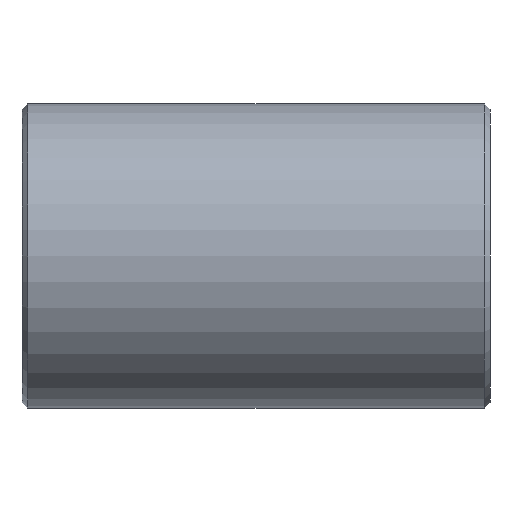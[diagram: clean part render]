
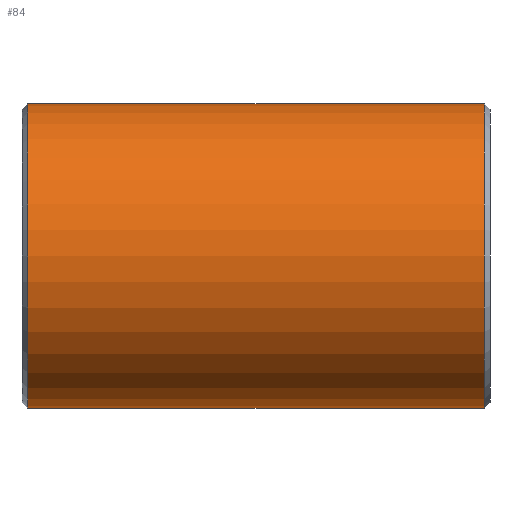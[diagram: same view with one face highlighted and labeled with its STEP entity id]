
A CAD part, front view. The second image highlights one B-rep face of the part: STEP entity #84.
In plain terms, the highlighted cylindrical face has radius 13 mm (diameter 26 mm), a partial arc.
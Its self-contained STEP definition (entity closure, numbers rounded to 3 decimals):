
#48 = LINE ( 'NONE', #449, #118 ) ;
#59 = VERTEX_POINT ( 'NONE', #107 ) ;
#72 = EDGE_CURVE ( 'NONE', #59, #88, #48, .T. ) ;
#82 = DIRECTION ( 'NONE',  ( 0., 0., -1. ) ) ;
#84 = ADVANCED_FACE ( 'NONE', ( #228 ), #328, .T. ) ;
#86 = ORIENTED_EDGE ( 'NONE', *, *, #227, .T. ) ;
#88 = VERTEX_POINT ( 'NONE', #387 ) ;
#89 = DIRECTION ( 'NONE',  ( 0., 0., 1. ) ) ;
#91 = ORIENTED_EDGE ( 'NONE', *, *, #296, .T. ) ;
#98 = CARTESIAN_POINT ( 'NONE',  ( 0., 0., 0. ) ) ;
#107 = CARTESIAN_POINT ( 'NONE',  ( 39.5, 0., -13. ) ) ;
#118 = VECTOR ( 'NONE', #267, 1000. ) ;
#122 = DIRECTION ( 'NONE',  ( 0., 0., 1. ) ) ;
#128 = CARTESIAN_POINT ( 'NONE',  ( 0.5, 0., 0. ) ) ;
#132 = EDGE_CURVE ( 'NONE', #363, #319, #412, .T. ) ;
#136 = CARTESIAN_POINT ( 'NONE',  ( 39.5, 0., 0. ) ) ;
#148 = AXIS2_PLACEMENT_3D ( 'NONE', #136, #340, #89 ) ;
#163 = AXIS2_PLACEMENT_3D ( 'NONE', #98, #443, #122 ) ;
#167 = VECTOR ( 'NONE', #374, 1000. ) ;
#181 = CARTESIAN_POINT ( 'NONE',  ( 0., 0., 13. ) ) ;
#192 = CIRCLE ( 'NONE', #310, 13. ) ;
#199 = CARTESIAN_POINT ( 'NONE',  ( 0.5, 0., 13. ) ) ;
#226 = ORIENTED_EDGE ( 'NONE', *, *, #72, .F. ) ;
#227 = EDGE_CURVE ( 'NONE', #59, #363, #360, .T. ) ;
#228 = FACE_OUTER_BOUND ( 'NONE', #245, .T. ) ;
#236 = ORIENTED_EDGE ( 'NONE', *, *, #132, .T. ) ;
#245 = EDGE_LOOP ( 'NONE', ( #226, #86, #236, #91 ) ) ;
#267 = DIRECTION ( 'NONE',  ( -1., 0., 0. ) ) ;
#296 = EDGE_CURVE ( 'NONE', #319, #88, #192, .T. ) ;
#310 = AXIS2_PLACEMENT_3D ( 'NONE', #128, #332, #82 ) ;
#316 = CARTESIAN_POINT ( 'NONE',  ( 39.5, 0., 13. ) ) ;
#319 = VERTEX_POINT ( 'NONE', #199 ) ;
#328 = CYLINDRICAL_SURFACE ( 'NONE', #163, 13. ) ;
#332 = DIRECTION ( 'NONE',  ( 1., 0., 0. ) ) ;
#340 = DIRECTION ( 'NONE',  ( -1., 0., 0. ) ) ;
#360 = CIRCLE ( 'NONE', #148, 13. ) ;
#363 = VERTEX_POINT ( 'NONE', #316 ) ;
#374 = DIRECTION ( 'NONE',  ( -1., 0., 0. ) ) ;
#387 = CARTESIAN_POINT ( 'NONE',  ( 0.5, 0., -13. ) ) ;
#412 = LINE ( 'NONE', #181, #167 ) ;
#443 = DIRECTION ( 'NONE',  ( -1., 0., 0. ) ) ;
#449 = CARTESIAN_POINT ( 'NONE',  ( 0., 0., -13. ) ) ;
